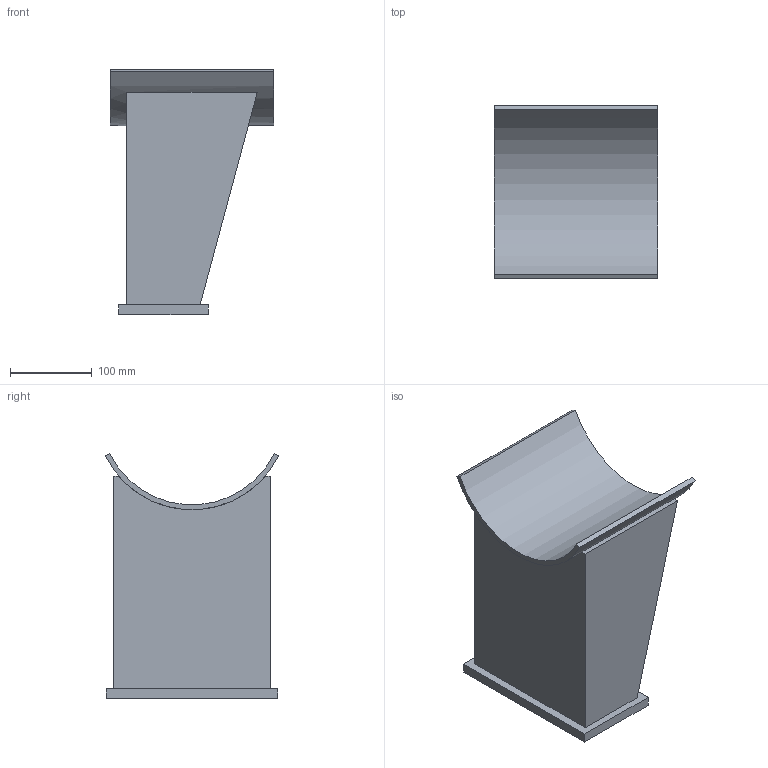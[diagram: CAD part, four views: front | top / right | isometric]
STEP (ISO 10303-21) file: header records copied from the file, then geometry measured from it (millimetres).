
FILE_DESCRIPTION(/* description */ (''),/* implementation_level */ '2;1');
FILE_NAME(/* name */ 'C:\Users\D\Documents\Inventor\HP\JPI\横置きタンクサドル\重荷重用\hc-saddle-hl_200A.stp',/* time_stamp */ '2026-01-27T18:46:46+09:00',/* author */ ('D'),/* organization */ (''),/* preprocessor_version */ 'ST-DEVELOPER v18',/* originating_system */ 'Autodesk Inventor 2020',/* authorisation */ '');
FILE_SCHEMA (('AUTOMOTIVE_DESIGN { 1 0 10303 214 3 1 1 }'));
Length unit declared in the file: millimetre
Products named in the file (1): 200A
Bounding box: 200 x 212.96 x 300.3 mm (x, y, z)
Volume: 1221154.1 mm3; surface area: 378362.8 mm2
Topology: 1 solids, 1 shells, 24 faces, 60 edges, 40 vertices
Faces by surface type: plane 20, cylinder 4
Full cylindrical faces by diameter (mm): 19 x2
Entity records: 779 total; most frequent: CARTESIAN_POINT 127, ORIENTED_EDGE 124, DIRECTION 124, EDGE_CURVE 62, LINE 50, VECTOR 50, VERTEX_POINT 40, AXIS2_PLACEMENT_3D 37
